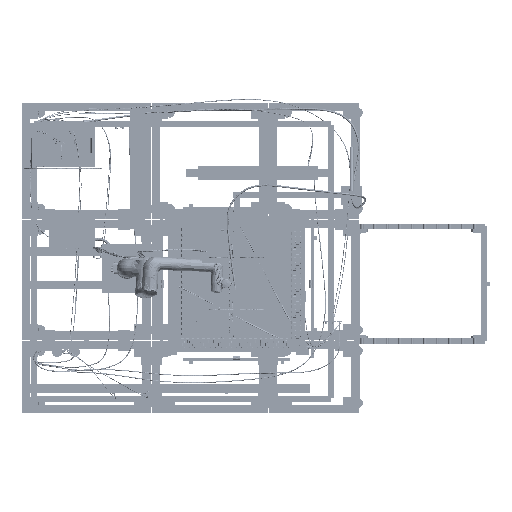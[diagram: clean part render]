
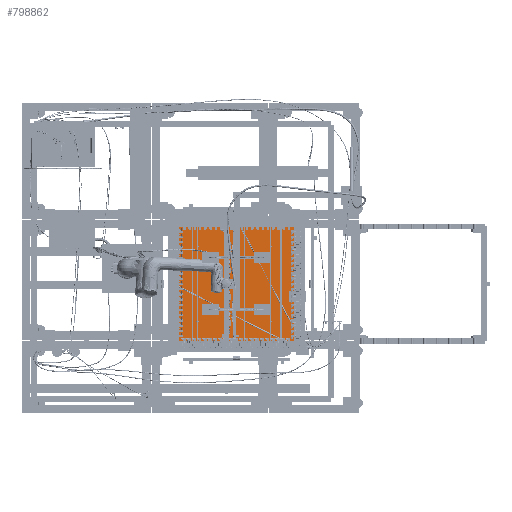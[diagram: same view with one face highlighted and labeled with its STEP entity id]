
A CAD part, top view. The second image highlights one B-rep face of the part: STEP entity #798862.
In plain terms, the highlighted planar face has unit normal (0, 0, 1) as drawn and (0, 1, 0) by its records, which use the part's own axes.
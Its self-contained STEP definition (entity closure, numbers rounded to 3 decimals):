
#798610 = PLANE('',#798611);
#798611 = AXIS2_PLACEMENT_3D('',#798612,#798613,#798614);
#798612 = CARTESIAN_POINT('',(-575.,-8.,-575.));
#798613 = DIRECTION('',(1.,0.,-0.));
#798614 = DIRECTION('',(0.,0.,1.));
#798635 = VERTEX_POINT('',#798636);
#798636 = CARTESIAN_POINT('',(-575.,8.,-575.));
#798650 = PLANE('',#798651);
#798651 = AXIS2_PLACEMENT_3D('',#798652,#798653,#798654);
#798652 = CARTESIAN_POINT('',(-575.,-8.,-575.));
#798653 = DIRECTION('',(0.,0.,1.));
#798654 = DIRECTION('',(1.,0.,-0.));
#798662 = EDGE_CURVE('',#798635,#798663,#798665,.T.);
#798663 = VERTEX_POINT('',#798664);
#798664 = CARTESIAN_POINT('',(-575.,8.,575.));
#798665 = SURFACE_CURVE('',#798666,(#798670,#798677),.PCURVE_S1.);
#798666 = LINE('',#798667,#798668);
#798667 = CARTESIAN_POINT('',(-575.,8.,-575.));
#798668 = VECTOR('',#798669,1.);
#798669 = DIRECTION('',(0.,0.,1.));
#798670 = PCURVE('',#798610,#798671);
#798671 = DEFINITIONAL_REPRESENTATION('',(#798672),#798676);
#798672 = LINE('',#798673,#798674);
#798673 = CARTESIAN_POINT('',(0.,-16.));
#798674 = VECTOR('',#798675,1.);
#798675 = DIRECTION('',(1.,0.));
#798676 = ( GEOMETRIC_REPRESENTATION_CONTEXT(2) 
PARAMETRIC_REPRESENTATION_CONTEXT() REPRESENTATION_CONTEXT('2D SPACE',''
  ) );
#798677 = PCURVE('',#798678,#798683);
#798678 = PLANE('',#798679);
#798679 = AXIS2_PLACEMENT_3D('',#798680,#798681,#798682);
#798680 = CARTESIAN_POINT('',(-575.,8.,-575.));
#798681 = DIRECTION('',(-0.,1.,0.));
#798682 = DIRECTION('',(0.,0.,1.));
#798683 = DEFINITIONAL_REPRESENTATION('',(#798684),#798688);
#798684 = LINE('',#798685,#798686);
#798685 = CARTESIAN_POINT('',(0.,0.));
#798686 = VECTOR('',#798687,1.);
#798687 = DIRECTION('',(1.,0.));
#798688 = ( GEOMETRIC_REPRESENTATION_CONTEXT(2) 
PARAMETRIC_REPRESENTATION_CONTEXT() REPRESENTATION_CONTEXT('2D SPACE',''
  ) );
#798704 = PLANE('',#798705);
#798705 = AXIS2_PLACEMENT_3D('',#798706,#798707,#798708);
#798706 = CARTESIAN_POINT('',(-575.,-8.,575.));
#798707 = DIRECTION('',(0.,0.,1.));
#798708 = DIRECTION('',(1.,0.,-0.));
#798730 = PLANE('',#798731);
#798731 = AXIS2_PLACEMENT_3D('',#798732,#798733,#798734);
#798732 = CARTESIAN_POINT('',(575.,-8.,-575.));
#798733 = DIRECTION('',(1.,0.,-0.));
#798734 = DIRECTION('',(0.,0.,1.));
#798750 = VERTEX_POINT('',#798751);
#798751 = CARTESIAN_POINT('',(575.,8.,-575.));
#798772 = EDGE_CURVE('',#798750,#798773,#798775,.T.);
#798773 = VERTEX_POINT('',#798774);
#798774 = CARTESIAN_POINT('',(575.,8.,575.));
#798775 = SURFACE_CURVE('',#798776,(#798780,#798787),.PCURVE_S1.);
#798776 = LINE('',#798777,#798778);
#798777 = CARTESIAN_POINT('',(575.,8.,-575.));
#798778 = VECTOR('',#798779,1.);
#798779 = DIRECTION('',(0.,0.,1.));
#798780 = PCURVE('',#798730,#798781);
#798781 = DEFINITIONAL_REPRESENTATION('',(#798782),#798786);
#798782 = LINE('',#798783,#798784);
#798783 = CARTESIAN_POINT('',(0.,-16.));
#798784 = VECTOR('',#798785,1.);
#798785 = DIRECTION('',(1.,0.));
#798786 = ( GEOMETRIC_REPRESENTATION_CONTEXT(2) 
PARAMETRIC_REPRESENTATION_CONTEXT() REPRESENTATION_CONTEXT('2D SPACE',''
  ) );
#798787 = PCURVE('',#798678,#798788);
#798788 = DEFINITIONAL_REPRESENTATION('',(#798789),#798793);
#798789 = LINE('',#798790,#798791);
#798790 = CARTESIAN_POINT('',(0.,1150.));
#798791 = VECTOR('',#798792,1.);
#798792 = DIRECTION('',(1.,0.));
#798793 = ( GEOMETRIC_REPRESENTATION_CONTEXT(2) 
PARAMETRIC_REPRESENTATION_CONTEXT() REPRESENTATION_CONTEXT('2D SPACE',''
  ) );
#798862 = ADVANCED_FACE('',(#798863),#798678,.T.);
#798863 = FACE_BOUND('',#798864,.T.);
#798864 = EDGE_LOOP('',(#798865,#798886,#798887,#798908));
#798865 = ORIENTED_EDGE('',*,*,#798866,.F.);
#798866 = EDGE_CURVE('',#798635,#798750,#798867,.T.);
#798867 = SURFACE_CURVE('',#798868,(#798872,#798879),.PCURVE_S1.);
#798868 = LINE('',#798869,#798870);
#798869 = CARTESIAN_POINT('',(-575.,8.,-575.));
#798870 = VECTOR('',#798871,1.);
#798871 = DIRECTION('',(1.,0.,-0.));
#798872 = PCURVE('',#798678,#798873);
#798873 = DEFINITIONAL_REPRESENTATION('',(#798874),#798878);
#798874 = LINE('',#798875,#798876);
#798875 = CARTESIAN_POINT('',(0.,0.));
#798876 = VECTOR('',#798877,1.);
#798877 = DIRECTION('',(0.,1.));
#798878 = ( GEOMETRIC_REPRESENTATION_CONTEXT(2) 
PARAMETRIC_REPRESENTATION_CONTEXT() REPRESENTATION_CONTEXT('2D SPACE',''
  ) );
#798879 = PCURVE('',#798650,#798880);
#798880 = DEFINITIONAL_REPRESENTATION('',(#798881),#798885);
#798881 = LINE('',#798882,#798883);
#798882 = CARTESIAN_POINT('',(0.,16.));
#798883 = VECTOR('',#798884,1.);
#798884 = DIRECTION('',(1.,0.));
#798885 = ( GEOMETRIC_REPRESENTATION_CONTEXT(2) 
PARAMETRIC_REPRESENTATION_CONTEXT() REPRESENTATION_CONTEXT('2D SPACE',''
  ) );
#798886 = ORIENTED_EDGE('',*,*,#798662,.T.);
#798887 = ORIENTED_EDGE('',*,*,#798888,.T.);
#798888 = EDGE_CURVE('',#798663,#798773,#798889,.T.);
#798889 = SURFACE_CURVE('',#798890,(#798894,#798901),.PCURVE_S1.);
#798890 = LINE('',#798891,#798892);
#798891 = CARTESIAN_POINT('',(-575.,8.,575.));
#798892 = VECTOR('',#798893,1.);
#798893 = DIRECTION('',(1.,0.,-0.));
#798894 = PCURVE('',#798678,#798895);
#798895 = DEFINITIONAL_REPRESENTATION('',(#798896),#798900);
#798896 = LINE('',#798897,#798898);
#798897 = CARTESIAN_POINT('',(1150.,0.));
#798898 = VECTOR('',#798899,1.);
#798899 = DIRECTION('',(0.,1.));
#798900 = ( GEOMETRIC_REPRESENTATION_CONTEXT(2) 
PARAMETRIC_REPRESENTATION_CONTEXT() REPRESENTATION_CONTEXT('2D SPACE',''
  ) );
#798901 = PCURVE('',#798704,#798902);
#798902 = DEFINITIONAL_REPRESENTATION('',(#798903),#798907);
#798903 = LINE('',#798904,#798905);
#798904 = CARTESIAN_POINT('',(0.,16.));
#798905 = VECTOR('',#798906,1.);
#798906 = DIRECTION('',(1.,0.));
#798907 = ( GEOMETRIC_REPRESENTATION_CONTEXT(2) 
PARAMETRIC_REPRESENTATION_CONTEXT() REPRESENTATION_CONTEXT('2D SPACE',''
  ) );
#798908 = ORIENTED_EDGE('',*,*,#798772,.F.);
